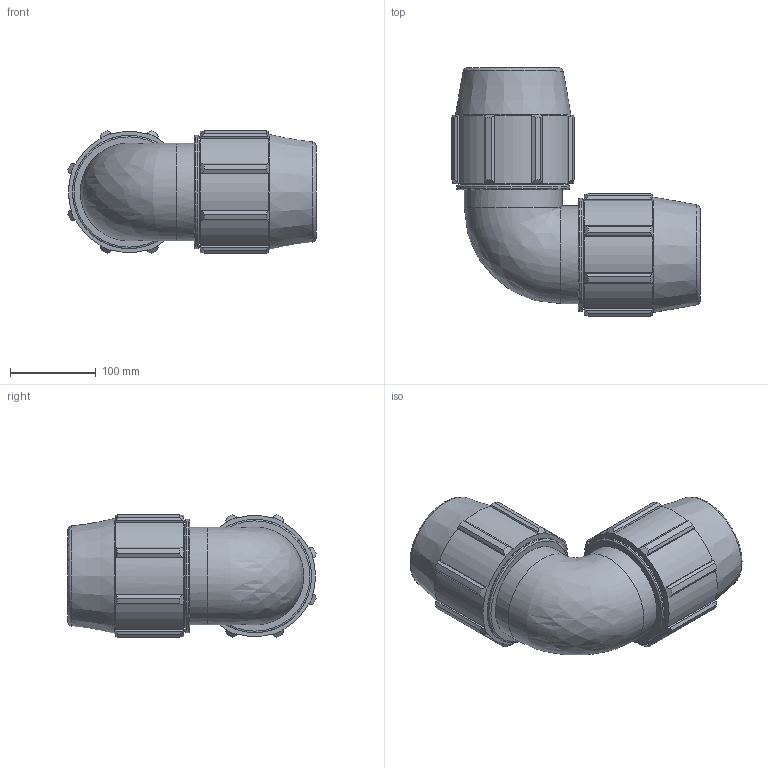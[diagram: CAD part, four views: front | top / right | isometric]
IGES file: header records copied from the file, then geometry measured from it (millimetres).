
Global section: file name: 0705M0030.ipt; native system: Autodesk Inventor 2019; preprocessor: unknown; author: KIM; date: 20210826.124615; units: inch
Bounding box: 289.39 x 289.39 x 142.92 mm (x, y, z)
Volume: 2972949.3 mm3; surface area: 327116.2 mm2
Topology: 1 solids, 1 shells, 148 faces, 422 edges, 284 vertices
Faces by surface type: plane 76, cylinder 38, cone 20, revolution 13, bspline 1
Full cylindrical faces by diameter (mm): 113.919 x4, 132.146 x2
